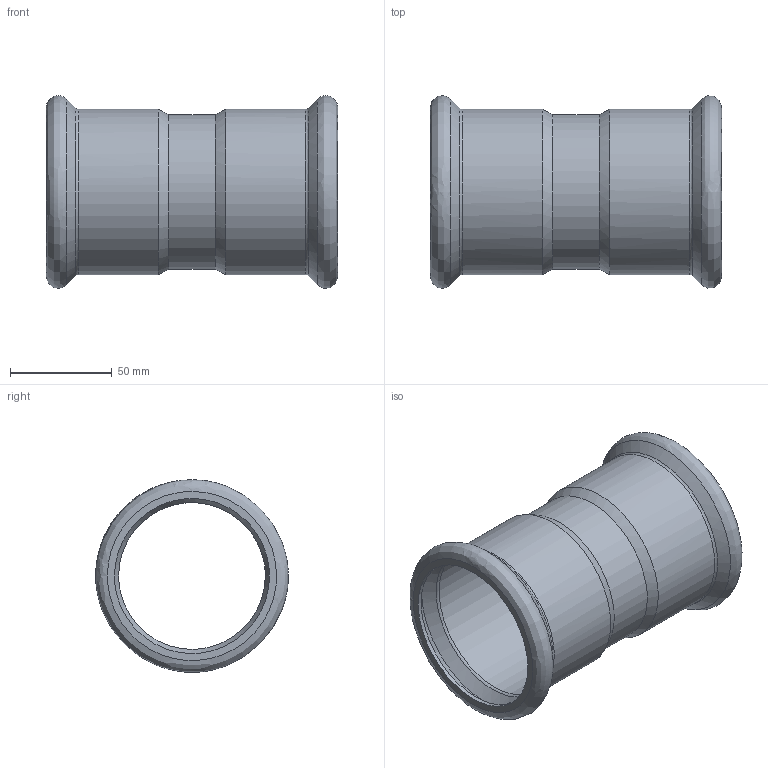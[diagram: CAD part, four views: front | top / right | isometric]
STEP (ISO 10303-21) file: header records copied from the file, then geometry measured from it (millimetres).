
FILE_DESCRIPTION(('FreeCAD Model'),'2;1');
FILE_NAME('Open CASCADE Shape Model','2025-10-20T15:02:39',('Author'),( ''),'Open CASCADE STEP processor 7.8','FreeCAD','Unknown');
FILE_SCHEMA(('AUTOMOTIVE_DESIGN { 1 0 10303 214 1 1 1 1 }'));
Length unit declared in the file: millimetre
Products named in the file (1): Solido1
Bounding box: 143 x 94.57 x 94.6 mm (x, y, z)
Volume: 80001.3 mm3; surface area: 81479 mm2
Topology: 1 solids, 1 shells, 28 faces, 96 edges, 72 vertices
Faces by surface type: bspline 28
Entity records: 1526 total; most frequent: CARTESIAN_POINT 1025, ORIENTED_EDGE 192, EDGE_CURVE 96, VERTEX_POINT 72, FACE_BOUND 32, EDGE_LOOP 32, ADVANCED_FACE 28, B_SPLINE_CURVE_WITH_KNOTS 16
